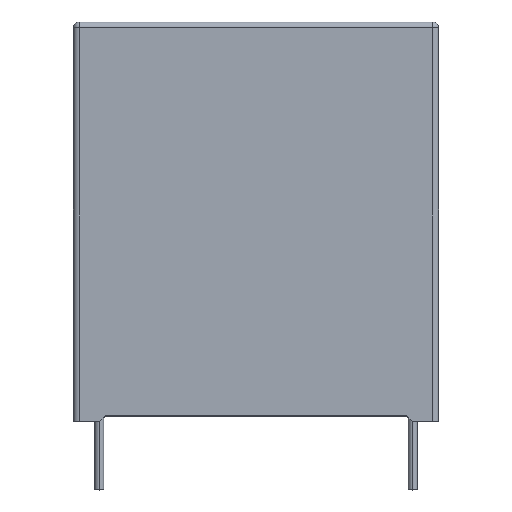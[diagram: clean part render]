
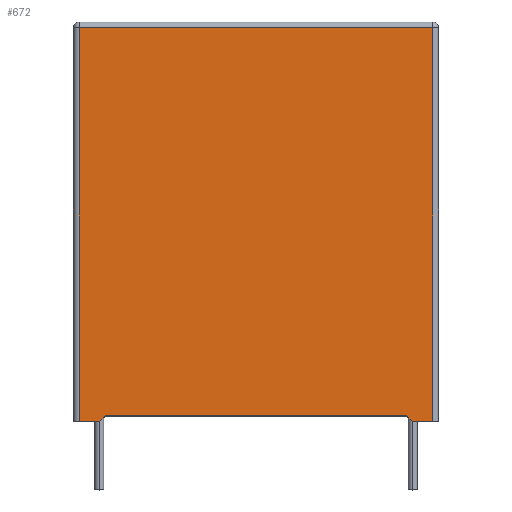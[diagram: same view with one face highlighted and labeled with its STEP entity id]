
A CAD part, top view. The second image highlights one B-rep face of the part: STEP entity #672.
In plain terms, the highlighted planar face has unit normal (0, 0, 1).
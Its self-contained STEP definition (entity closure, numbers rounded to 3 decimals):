
#6 = EDGE_CURVE ( 'NONE', #3329, #3928, #1916, .T. ) ;
#111 = CARTESIAN_POINT ( 'NONE',  ( -16., 0., 10. ) ) ;
#144 = LINE ( 'NONE', #2652, #152 ) ;
#152 = VECTOR ( 'NONE', #3512, 1000. ) ;
#245 = EDGE_CURVE ( 'NONE', #3882, #3928, #1136, .T. ) ;
#499 = CARTESIAN_POINT ( 'NONE',  ( -13.7, 0., 10. ) ) ;
#518 = DIRECTION ( 'NONE',  ( 1., 0., 0. ) ) ;
#672 = ADVANCED_FACE ( 'NONE', ( #1272 ), #4116, .F. ) ;
#747 = AXIS2_PLACEMENT_3D ( 'NONE', #4148, #4092, #4087 ) ;
#1072 = EDGE_CURVE ( 'NONE', #3171, #3329, #4206, .T. ) ;
#1076 = VECTOR ( 'NONE', #2594, 1000. ) ;
#1090 = LINE ( 'NONE', #3911, #3538 ) ;
#1136 = LINE ( 'NONE', #2649, #1076 ) ;
#1198 = CARTESIAN_POINT ( 'NONE',  ( -13.2, 0.5, 10. ) ) ;
#1272 = FACE_OUTER_BOUND ( 'NONE', #2120, .T. ) ;
#1312 = LINE ( 'NONE', #1340, #2398 ) ;
#1318 = LINE ( 'NONE', #3812, #1877 ) ;
#1340 = CARTESIAN_POINT ( 'NONE',  ( -16., 34.5, 10. ) ) ;
#1472 = EDGE_CURVE ( 'NONE', #2947, #3041, #2127, .T. ) ;
#1554 = DIRECTION ( 'NONE',  ( -1., 0., 0. ) ) ;
#1684 = CARTESIAN_POINT ( 'NONE',  ( -15.5, 0., 10. ) ) ;
#1690 = CARTESIAN_POINT ( 'NONE',  ( 15.5, 34.5, 10. ) ) ;
#1806 = DIRECTION ( 'NONE',  ( 0., -1., 0. ) ) ;
#1877 = VECTOR ( 'NONE', #2675, 1000. ) ;
#1911 = VECTOR ( 'NONE', #3069, 1000. ) ;
#1916 = LINE ( 'NONE', #3036, #1911 ) ;
#2024 = CARTESIAN_POINT ( 'NONE',  ( -15.5, 34.5, 10. ) ) ;
#2058 = VECTOR ( 'NONE', #518, 1000. ) ;
#2083 = EDGE_CURVE ( 'NONE', #2947, #3171, #144, .T. ) ;
#2120 = EDGE_LOOP ( 'NONE', ( #2602, #2617, #2866, #2976, #3671, #3838, #3938, #4046 ) ) ;
#2127 = LINE ( 'NONE', #111, #2058 ) ;
#2313 = EDGE_CURVE ( 'NONE', #3041, #2350, #1318, .T. ) ;
#2347 = EDGE_CURVE ( 'NONE', #2350, #3803, #1312, .T. ) ;
#2350 = VERTEX_POINT ( 'NONE', #1690 ) ;
#2398 = VECTOR ( 'NONE', #3264, 1000. ) ;
#2594 = DIRECTION ( 'NONE',  ( 1., 0., 0. ) ) ;
#2602 = ORIENTED_EDGE ( 'NONE', *, *, #1072, .F. ) ;
#2617 = ORIENTED_EDGE ( 'NONE', *, *, #2083, .F. ) ;
#2649 = CARTESIAN_POINT ( 'NONE',  ( -16., 0., 10. ) ) ;
#2652 = CARTESIAN_POINT ( 'NONE',  ( 13.2, 0.5, 10. ) ) ;
#2675 = DIRECTION ( 'NONE',  ( 0., 1., 0. ) ) ;
#2681 = EDGE_CURVE ( 'NONE', #3803, #3882, #1090, .T. ) ;
#2829 = CARTESIAN_POINT ( 'NONE',  ( 13.7, 0., 10. ) ) ;
#2866 = ORIENTED_EDGE ( 'NONE', *, *, #1472, .T. ) ;
#2947 = VERTEX_POINT ( 'NONE', #2829 ) ;
#2976 = ORIENTED_EDGE ( 'NONE', *, *, #2313, .T. ) ;
#3036 = CARTESIAN_POINT ( 'NONE',  ( -13.7, 0., 10. ) ) ;
#3041 = VERTEX_POINT ( 'NONE', #3415 ) ;
#3069 = DIRECTION ( 'NONE',  ( -0.707, -0.707, 0. ) ) ;
#3171 = VERTEX_POINT ( 'NONE', #3992 ) ;
#3264 = DIRECTION ( 'NONE',  ( -1., 0., 0. ) ) ;
#3329 = VERTEX_POINT ( 'NONE', #4279 ) ;
#3415 = CARTESIAN_POINT ( 'NONE',  ( 15.5, 0., 10. ) ) ;
#3512 = DIRECTION ( 'NONE',  ( -0.707, 0.707, 0. ) ) ;
#3538 = VECTOR ( 'NONE', #1806, 1000. ) ;
#3671 = ORIENTED_EDGE ( 'NONE', *, *, #2347, .T. ) ;
#3803 = VERTEX_POINT ( 'NONE', #2024 ) ;
#3812 = CARTESIAN_POINT ( 'NONE',  ( 15.5, 35., 10. ) ) ;
#3838 = ORIENTED_EDGE ( 'NONE', *, *, #2681, .T. ) ;
#3882 = VERTEX_POINT ( 'NONE', #1684 ) ;
#3911 = CARTESIAN_POINT ( 'NONE',  ( -15.5, 35., 10. ) ) ;
#3928 = VERTEX_POINT ( 'NONE', #499 ) ;
#3938 = ORIENTED_EDGE ( 'NONE', *, *, #245, .T. ) ;
#3992 = CARTESIAN_POINT ( 'NONE',  ( 13.2, 0.5, 10. ) ) ;
#4046 = ORIENTED_EDGE ( 'NONE', *, *, #6, .F. ) ;
#4087 = DIRECTION ( 'NONE',  ( -1., 0., 0. ) ) ;
#4092 = DIRECTION ( 'NONE',  ( 0., 0., -1. ) ) ;
#4116 = PLANE ( 'NONE',  #747 ) ;
#4148 = CARTESIAN_POINT ( 'NONE',  ( -16., 35., 10. ) ) ;
#4171 = VECTOR ( 'NONE', #1554, 1000. ) ;
#4206 = LINE ( 'NONE', #1198, #4171 ) ;
#4279 = CARTESIAN_POINT ( 'NONE',  ( -13.2, 0.5, 10. ) ) ;
